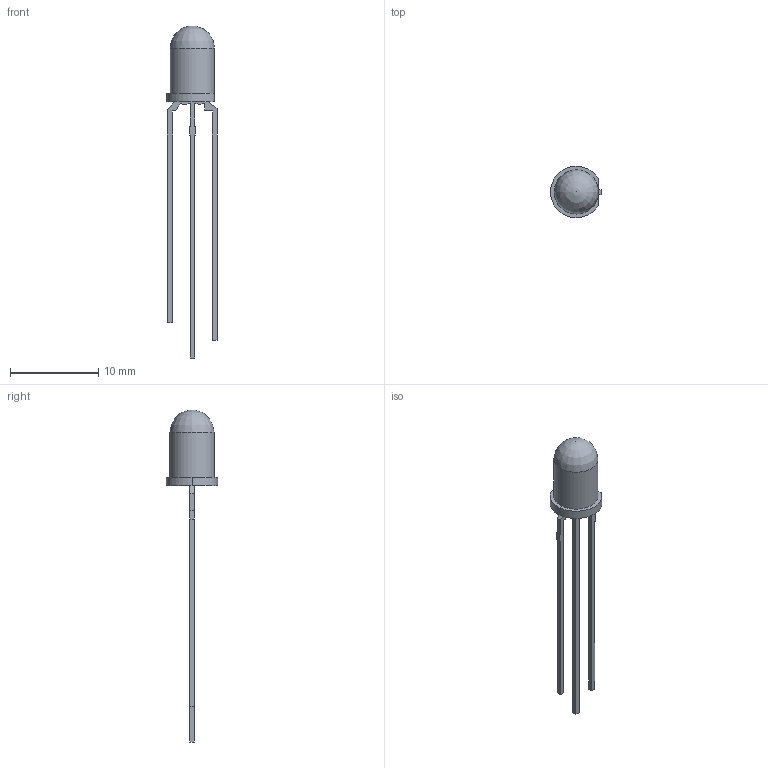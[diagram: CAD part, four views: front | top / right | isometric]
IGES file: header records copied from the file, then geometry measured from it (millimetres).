
Start section: Data from Parasolid IGES Translator 25.1.153, Copyright(c) 2006 Siemens PLM Software. All Rights Reserved.
Global section: file name: 62b625b5ae8fb23cede8147d.iges; native system: By Siemens PLM Incorporated; preprocessor: XPlus GENERIC/IGES 25.1.153; author: Noname; organization: Noname; date: 20220624.205933; units: metre
Bounding box: 5.76 x 5.85 x 37.6 mm (x, y, z)
Surface area: 340.5 mm2 (no closed solid volume)
Topology: 0 solids, 0 shells, 110 faces, 601 edges, 598 vertices
Faces by surface type: extrusion 102, revolution 8
